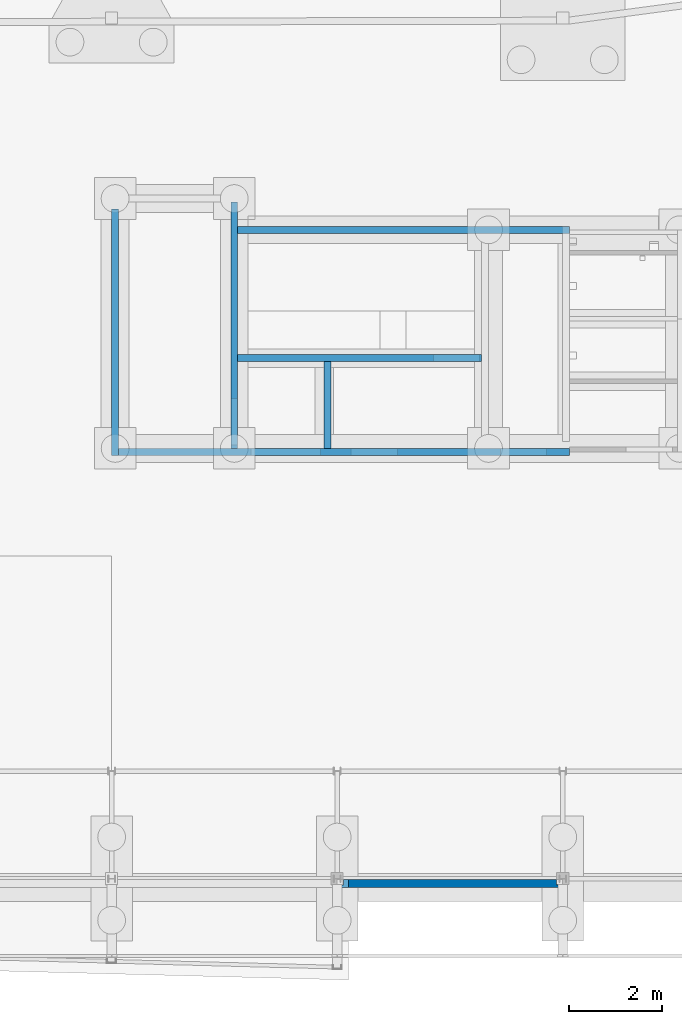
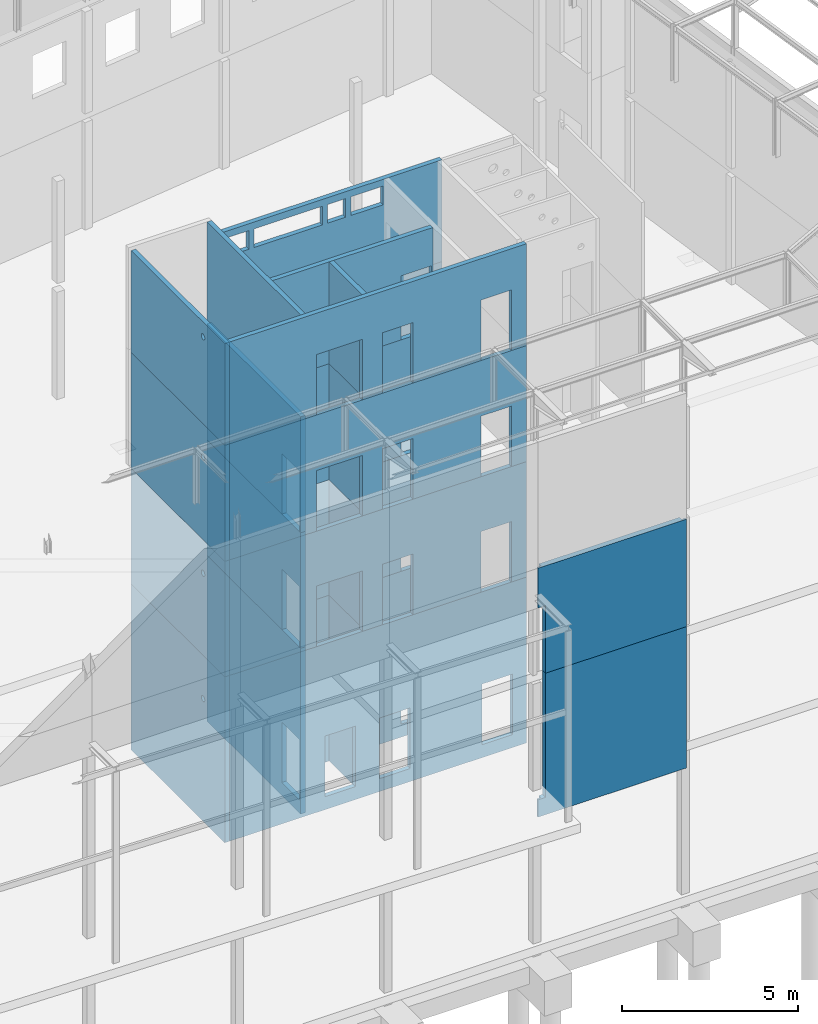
# One storey, part 74 of 82: 25 walls.
"""IFC2X3 building model written with IfcOpenShell, lengths in millimetres."""

from ifc_helpers import new_model, si_unit, frame, frame_2d, origin_with_axes, place, context, subcontext, project, spatial, polyline, rectangle, circle, outline, extrude, boolean, material, layer, layer_set, layer_usage, type_object, element, save


model = new_model("IFC2X3")

# Units and contexts
model_context = context("Model", 3, precision=1e-05, world=origin_with_axes())
body_context = subcontext(model_context, "Body", "Model", "MODEL_VIEW")
ifc_project = project(units=[si_unit("LENGTHUNIT", "METRE", prefix="MILLI"), si_unit("AREAUNIT", "SQUARE_METRE"), si_unit("VOLUMEUNIT", "CUBIC_METRE"), si_unit("MASSUNIT", "GRAM", prefix="KILO"), si_unit("TIMEUNIT", "SECOND"), si_unit("PLANEANGLEUNIT", "RADIAN"), si_unit("SOLIDANGLEUNIT", "STERADIAN"), si_unit("THERMODYNAMICTEMPERATUREUNIT", "DEGREE_CELSIUS"), si_unit("LUMINOUSINTENSITYUNIT", "LUMEN")], contexts=[model_context])

# Site, building, storey
site_placement = place(None, origin_with_axes())
site = spatial("IfcSite", under=ifc_project, at=site_placement, Name="Undefined", CompositionType="ELEMENT")
building_placement = place(site_placement, origin_with_axes())
building = spatial("IfcBuilding", under=site, at=building_placement, Name="Undefined", CompositionType="ELEMENT")
storey_placement = place(building_placement, origin_with_axes())
storey = spatial("IfcBuildingStorey", under=building, at=storey_placement, Name="Undefined", CompositionType="ELEMENT", Elevation=0.0)

# Walls
ifc_material = material(Name="CONCRETE/C25/30")
ifc_layer_1 = layer(ifc_material, 150.0)
ifc_layer_set_1 = layer_set([ifc_layer_1], Name="Wall: Insitu CONCRETE/C25/30")
ifc_layer_usage_1 = layer_usage(ifc_layer_set_1, "AXIS2", "POSITIVE", -75.0)
wall_type_1 = type_object("IfcWallType", Name="4025*150", PredefinedType="NOTDEFINED")
wall_1_placement = place(storey_placement, frame((51765.6910058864, 9299.99999994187, 9305.0), z_axis=(0.0, 0.0, 1.0), x_axis=(0.0, 1.0, 0.0)))
element("IfcWallStandardCase", 1, at=wall_1_placement, inside=storey, type_object=wall_type_1, material=ifc_layer_usage_1, Name="VOILE_15CM", ObjectType="4025*150", context=body_context, shape_type="SweptSolid", body=[
    extrude(rectangle(XDim=1874.99999997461, YDim=150.0, at=frame_2d((0.0, 937.499999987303), x_axis=(0.0, -1.0))), frame((0.0, 0.0, 0.0), z_axis=(0.0, 0.0, 1.0), x_axis=(-2.77555756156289e-17, -1.0, 0.0)), (0.0, 0.0, 1.0), 4025.0),
])
ifc_layer_usage_2 = layer_usage(ifc_layer_set_1, "AXIS2", "POSITIVE", -75.0)
wall_2_placement = place(storey_placement, frame((55096.3767782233, 11249.9999999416, 9305.0), z_axis=(0.0, 0.0, 1.0), x_axis=(-1.0, 0.0, 0.0)))
element("IfcWallStandardCase", 2, at=wall_2_placement, inside=storey, type_object=wall_type_1, material=ifc_layer_usage_2, Name="VOILE_15CM", ObjectType="4025*150", context=body_context, shape_type="CSG", body=[
    boolean("DIFFERENCE", extrude(rectangle(XDim=5271.37655648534, YDim=150.0, at=frame_2d((0.0, 2635.68827824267), x_axis=(0.0, -1.0))), frame((0.0, 0.0, 0.0), z_axis=(0.0, 0.0, 1.0), x_axis=(-2.77555756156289e-17, -1.0, 0.0)), (0.0, 0.0, 1.0), 4025.0), extrude(outline(polyline([(5.17284206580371e-08, 4.49290382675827e-10), (2220.0, -4.22005541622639e-10), (2220.0, 999.999999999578), (0.0, 1000.00000000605), (5.17284206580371e-08, 4.49290382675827e-10)])), frame((1042.09976915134, -84.9999998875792, 2220.0), z_axis=(0.0, 1.0, 0.0), x_axis=(0.0, -6.50000002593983e-08, -0.999999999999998)), (0.0, 0.0, 1.0), 170.0)),
])
ifc_layer_usage_3 = layer_usage(ifc_layer_set_1, "AXIS2", "POSITIVE", -75.0)
wall_3_placement = place(storey_placement, frame((56999.999999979, 14024.9999999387, 9305.0), z_axis=(0.0, 0.0, 1.0), x_axis=(-1.0, 0.0, 0.0)))
element("IfcWallStandardCase", 3, at=wall_3_placement, inside=storey, type_object=wall_type_1, material=ifc_layer_usage_3, Name="VOILE_15CM", ObjectType="4025*150", context=body_context, shape_type="CSG", body=[
    boolean("DIFFERENCE", boolean("DIFFERENCE", extrude(rectangle(XDim=7175.00000000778, YDim=150.0, at=frame_2d((0.0, 3587.50000000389), x_axis=(0.0, -1.0))), frame((0.0, 0.0, 0.0), z_axis=(0.0, 0.0, 1.0), x_axis=(-2.77555756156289e-17, -1.0, 0.0)), (0.0, 0.0, 1.0), 4025.0), extrude(rectangle(XDim=700.0, YDim=550.0, at=frame_2d((5.17284206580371e-08, 4.49290382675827e-10), x_axis=(1.0, 0.0))), frame((3464.99668891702, -85.0, 2900.00022125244), z_axis=(0.0, 1.0, 0.0), x_axis=(-1.0, 0.0, 0.0)), (0.0, 0.0, 1.0), 170.0)), extrude(rectangle(XDim=1100.0, YDim=700.0, at=frame_2d((5.17284206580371e-08, 4.49290382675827e-10), x_axis=(1.0, 0.0))), frame((2464.91276556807, -85.0, 2867.49995422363), z_axis=(0.0, 1.0, 0.0), x_axis=(-1.0, 0.0, 0.0)), (0.0, 0.0, 1.0), 170.0)),
])
ifc_layer_usage_4 = layer_usage(ifc_layer_set_1, "AXIS2", "POSITIVE", -75.0)
wall_4_placement = place(storey_placement, frame((49749.9999999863, 9299.99999994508, 9305.0), z_axis=(0.0, 0.0, 1.0), x_axis=(0.0, 1.0, 0.0)))
element("IfcWallStandardCase", 4, at=wall_4_placement, inside=storey, type_object=wall_type_1, material=ifc_layer_usage_4, Name="VOILE_15CM", ObjectType="4025*150", context=body_context, shape_type="CSG", body=[
    boolean("DIFFERENCE", extrude(rectangle(XDim=5324.99999999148, YDim=150.0, at=frame_2d((0.0, 2662.49999999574), x_axis=(0.0, -1.0))), frame((0.0, 0.0, 0.0), z_axis=(0.0, 0.0, 1.0), x_axis=(-2.77555756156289e-17, -1.0, 0.0)), (0.0, 0.0, 1.0), 4025.0), extrude(outline(polyline([(5.17284206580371e-08, 4.49290382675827e-10), (2100.0, 5.82076609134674e-11), (2100.0, 1000.00000000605), (0.0, 1000.00000000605), (5.17284206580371e-08, 4.49290382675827e-10)])), frame((74.999999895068, 85.0000000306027, 2100.0), z_axis=(-2.77555756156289e-17, -1.0, 0.0), x_axis=(0.0, -6.50000002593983e-08, -0.999999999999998)), (0.0, 0.0, 1.0), 170.0)),
])
ifc_layer_usage_5 = layer_usage(ifc_layer_set_1, "AXIS2", "POSITIVE", -75.0)
wall_5_placement = place(storey_placement, frame((47099.9999999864, 9224.9999999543, 9305.0), z_axis=(0.0, 0.0, 1.0), x_axis=(1.0, 0.0, 0.0)))
element("IfcWallStandardCase", 5, at=wall_5_placement, inside=storey, type_object=wall_type_1, material=ifc_layer_usage_5, Name="VOILE_15CM", ObjectType="4025*150", context=body_context, shape_type="CSG", body=[
    boolean("DIFFERENCE", boolean("DIFFERENCE", boolean("DIFFERENCE", extrude(rectangle(XDim=9900.00000000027, YDim=150.0, at=frame_2d((0.0, 4950.00000000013), x_axis=(0.0, -1.0))), frame((0.0, 0.0, 0.0), z_axis=(0.0, 0.0, 1.0), x_axis=(-2.77555756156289e-17, -1.0, 0.0)), (0.0, 0.0, 1.0), 4025.0), extrude(outline(polyline([(5.17284206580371e-08, 4.49290382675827e-10), (2100.0, 5.82076609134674e-11), (2100.0, 1000.00000000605), (0.0, 1000.00000000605), (5.17284206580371e-08, 4.49290382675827e-10)])), frame((8400.88208060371, 84.9999998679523, 2100.0), z_axis=(-2.77555756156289e-17, -1.0, 0.0), x_axis=(0.0, -6.50000002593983e-08, -0.999999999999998)), (0.0, 0.0, 1.0), 170.0)), extrude(outline(polyline([(5.17284206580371e-08, 4.49290382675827e-10), (2100.0, 5.82076609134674e-11), (2100.0, 1000.00000000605), (0.0, 1000.00000000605), (5.17284206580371e-08, 4.49290382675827e-10)])), frame((5175.39775832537, 84.99999988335, 2100.0), z_axis=(-2.77555756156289e-17, -1.0, 0.0), x_axis=(0.0, -6.50000002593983e-08, -0.999999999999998)), (0.0, 0.0, 1.0), 170.0)), extrude(outline(polyline([(5.17284206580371e-08, 4.49290382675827e-10), (2100.0, 5.82076609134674e-11), (2100.0, 1499.99999999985), (0.0, 1499.99999999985), (5.17284206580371e-08, 4.49290382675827e-10)])), frame((3009.51444525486, 84.999999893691, 2100.0), z_axis=(-2.77555756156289e-17, -1.0, 0.0), x_axis=(0.0, -6.50000002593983e-08, -0.999999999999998)), (0.0, 0.0, 1.0), 170.0)),
])
ifc_layer_usage_6 = layer_usage(ifc_layer_set_1, "AXIS2", "POSITIVE", -75.0)
wall_6_placement = place(storey_placement, frame((47174.9999999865, 9149.99999994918, 9305.0), z_axis=(0.0, 0.0, 1.0), x_axis=(0.0, 1.0, 0.0)))
element("IfcWallStandardCase", 6, at=wall_6_placement, inside=storey, type_object=wall_type_1, material=ifc_layer_usage_6, Name="VOILE_15CM", ObjectType="4025*150", context=body_context, shape_type="CSG", body=[
    boolean("DIFFERENCE", extrude(rectangle(XDim=5324.99999999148, YDim=150.0, at=frame_2d((0.0, 2662.49999999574), x_axis=(0.0, -1.0))), frame((0.0, 0.0, 0.0), z_axis=(0.0, 0.0, 1.0), x_axis=(-2.77555756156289e-17, -1.0, 0.0)), (0.0, 0.0, 1.0), 4025.0), extrude(circle(Radius=100.0, at=frame_2d((5.17284206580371e-08, 4.49290382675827e-10), x_axis=(1.0, 0.0))), frame((1235.63286577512, -85.0, 2870.25073242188), z_axis=(0.0, 1.0, 0.0), x_axis=(-1.0, 0.0, 0.0)), (0.0, 0.0, 1.0), 170.0)),
])
ifc_layer_usage_7 = layer_usage(ifc_layer_set_1, "AXIS2", "POSITIVE", -75.0)
wall_type_2 = type_object("IfcWallType", Name="4005*150", PredefinedType="NOTDEFINED")
wall_7_placement = place(storey_placement, frame((51765.6910058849, 9299.99999994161, 5300.0), z_axis=(0.0, 0.0, 1.0), x_axis=(0.0, 1.0, 0.0)))
element("IfcWallStandardCase", 7, at=wall_7_placement, inside=storey, type_object=wall_type_2, material=ifc_layer_usage_7, Name="VOILE_15CM", ObjectType="4005*150", context=body_context, shape_type="SweptSolid", body=[
    extrude(rectangle(XDim=1874.99999997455, YDim=150.0, at=frame_2d((0.0, 937.499999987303), x_axis=(0.0, -1.0))), frame((0.0, 0.0, 0.0), z_axis=(0.0, 0.0, 1.0), x_axis=(-2.77555756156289e-17, -1.0, 0.0)), (0.0, 0.0, 1.0), 4005.0),
])
ifc_layer_usage_8 = layer_usage(ifc_layer_set_1, "AXIS2", "POSITIVE", -75.0)
wall_8_placement = place(storey_placement, frame((55096.3767782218, 11249.9999999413, 5300.0), z_axis=(0.0, 0.0, 1.0), x_axis=(-1.0, 0.0, 0.0)))
element("IfcWallStandardCase", 8, at=wall_8_placement, inside=storey, type_object=wall_type_2, material=ifc_layer_usage_8, Name="VOILE_15CM", ObjectType="4005*150", context=body_context, shape_type="CSG", body=[
    boolean("DIFFERENCE", extrude(rectangle(XDim=5271.37655648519, YDim=150.0, at=frame_2d((0.0, 2635.68827824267), x_axis=(0.0, -1.0))), frame((0.0, 0.0, 0.0), z_axis=(0.0, 0.0, 1.0), x_axis=(-2.77555756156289e-17, -1.0, 0.0)), (0.0, 0.0, 1.0), 4005.0), extrude(outline(polyline([(5.17284206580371e-08, 4.49290382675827e-10), (2200.0, 1.09139364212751e-11), (2200.0, 1000.00000000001), (0.0, 1000.00000000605), (5.17284206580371e-08, 4.49290382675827e-10)])), frame((1042.09976910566, -84.9999998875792, 2200.0), z_axis=(0.0, 1.0, 0.0), x_axis=(0.0, -6.50000002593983e-08, -0.999999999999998)), (0.0, 0.0, 1.0), 170.0)),
])
ifc_layer_usage_9 = layer_usage(ifc_layer_set_1, "AXIS2", "POSITIVE", -75.0)
wall_9_placement = place(storey_placement, frame((56999.9999999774, 14024.9999999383, 5300.0), z_axis=(0.0, 0.0, 1.0), x_axis=(-1.0, 0.0, 0.0)))
element("IfcWallStandardCase", 9, at=wall_9_placement, inside=storey, type_object=wall_type_2, material=ifc_layer_usage_9, Name="VOILE_15CM", ObjectType="4005*150", context=body_context, shape_type="CSG", body=[
    boolean("DIFFERENCE", boolean("DIFFERENCE", extrude(rectangle(XDim=7175.00000000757, YDim=150.0, at=frame_2d((0.0, 3587.50000000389), x_axis=(0.0, -1.0))), frame((0.0, 0.0, 0.0), z_axis=(0.0, 0.0, 1.0), x_axis=(-2.77555756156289e-17, -1.0, 0.0)), (0.0, 0.0, 1.0), 4005.0), extrude(rectangle(XDim=650.0, YDim=650.0, at=frame_2d((5.17284206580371e-08, 4.49290382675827e-10), x_axis=(1.0, 0.0))), frame((5865.00317414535, -85.0, 2874.99953460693), z_axis=(0.0, 1.0, 0.0), x_axis=(-1.0, 0.0, 0.0)), (0.0, 0.0, 1.0), 170.0)), extrude(rectangle(XDim=750.0, YDim=500.0, at=frame_2d((5.17284206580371e-08, 4.49290382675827e-10), x_axis=(1.0, 0.0))), frame((2707.28470003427, -85.0, 2899.99953460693), z_axis=(0.0, 1.0, 0.0), x_axis=(-1.0, 0.0, 0.0)), (0.0, 0.0, 1.0), 170.0)),
])
ifc_layer_usage_10 = layer_usage(ifc_layer_set_1, "AXIS2", "POSITIVE", -75.0)
wall_10_placement = place(storey_placement, frame((49749.9999999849, 9299.99999994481, 5300.0), z_axis=(0.0, 0.0, 1.0), x_axis=(0.0, 1.0, 0.0)))
element("IfcWallStandardCase", 10, at=wall_10_placement, inside=storey, type_object=wall_type_2, material=ifc_layer_usage_10, Name="VOILE_15CM", ObjectType="4005*150", context=body_context, shape_type="CSG", body=[
    boolean("DIFFERENCE", extrude(rectangle(XDim=5324.99999999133, YDim=150.0, at=frame_2d((0.0, 2662.49999999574), x_axis=(0.0, -1.0))), frame((0.0, 0.0, 0.0), z_axis=(0.0, 0.0, 1.0), x_axis=(-2.77555756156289e-17, -1.0, 0.0)), (0.0, 0.0, 1.0), 4005.0), extrude(outline(polyline([(5.17284206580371e-08, 4.49290382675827e-10), (2100.0, 5.82076609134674e-11), (2100.0, 1000.00000000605), (0.0, 1000.00000000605), (5.17284206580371e-08, 4.49290382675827e-10)])), frame((74.999999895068, 85.0000000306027, 2100.0), z_axis=(-2.77555756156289e-17, -1.0, 0.0), x_axis=(0.0, -6.50000002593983e-08, -0.999999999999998)), (0.0, 0.0, 1.0), 170.0)),
])
ifc_layer_usage_11 = layer_usage(ifc_layer_set_1, "AXIS2", "POSITIVE", -75.0)
wall_11_placement = place(storey_placement, frame((47099.999999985, 9224.99999995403, 5300.0), z_axis=(0.0, 0.0, 1.0), x_axis=(1.0, 0.0, 0.0)))
element("IfcWallStandardCase", 11, at=wall_11_placement, inside=storey, type_object=wall_type_2, material=ifc_layer_usage_11, Name="VOILE_15CM", ObjectType="4005*150", context=body_context, shape_type="CSG", body=[
    boolean("DIFFERENCE", boolean("DIFFERENCE", boolean("DIFFERENCE", extrude(rectangle(XDim=9899.99999999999, YDim=150.0, at=frame_2d((0.0, 4950.00000000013), x_axis=(0.0, -1.0))), frame((0.0, 0.0, 0.0), z_axis=(0.0, 0.0, 1.0), x_axis=(-2.77555756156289e-17, -1.0, 0.0)), (0.0, 0.0, 1.0), 4005.0), extrude(outline(polyline([(5.17284206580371e-08, 4.49290382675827e-10), (2100.0, 5.82076609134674e-11), (2100.0, 1000.00000000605), (0.0, 1000.00000000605), (5.17284206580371e-08, 4.49290382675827e-10)])), frame((8400.88208060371, 84.9999998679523, 2100.0), z_axis=(-2.77555756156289e-17, -1.0, 0.0), x_axis=(0.0, -6.50000002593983e-08, -0.999999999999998)), (0.0, 0.0, 1.0), 170.0)), extrude(outline(polyline([(5.17284206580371e-08, 4.49290382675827e-10), (2100.0, 5.82076609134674e-11), (2100.0, 1000.00000000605), (0.0, 1000.00000000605), (5.17284206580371e-08, 4.49290382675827e-10)])), frame((5175.39775832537, 84.99999988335, 2100.0), z_axis=(-2.77555756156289e-17, -1.0, 0.0), x_axis=(0.0, -6.50000002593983e-08, -0.999999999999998)), (0.0, 0.0, 1.0), 170.0)), extrude(outline(polyline([(5.17284206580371e-08, 4.49290382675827e-10), (2100.0, 5.82076609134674e-11), (2100.0, 1499.99999999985), (0.0, 1499.99999999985), (5.17284206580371e-08, 4.49290382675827e-10)])), frame((3009.51444525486, 84.999999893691, 2100.0), z_axis=(-2.77555756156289e-17, -1.0, 0.0), x_axis=(0.0, -6.50000002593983e-08, -0.999999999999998)), (0.0, 0.0, 1.0), 170.0)),
])
ifc_layer_usage_12 = layer_usage(ifc_layer_set_1, "AXIS2", "POSITIVE", -75.0)
wall_12_placement = place(storey_placement, frame((47174.9999999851, 9149.99999994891, 5300.0), z_axis=(0.0, 0.0, 1.0), x_axis=(0.0, 1.0, 0.0)))
element("IfcWallStandardCase", 12, at=wall_12_placement, inside=storey, type_object=wall_type_2, material=ifc_layer_usage_12, Name="VOILE_15CM", ObjectType="4005*150", context=body_context, shape_type="CSG", body=[
    boolean("DIFFERENCE", extrude(rectangle(XDim=5324.99999999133, YDim=150.0, at=frame_2d((0.0, 2662.49999999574), x_axis=(0.0, -1.0))), frame((0.0, 0.0, 0.0), z_axis=(0.0, 0.0, 1.0), x_axis=(-2.77555756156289e-17, -1.0, 0.0)), (0.0, 0.0, 1.0), 4005.0), extrude(circle(Radius=100.0, at=frame_2d((5.17284206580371e-08, 4.49290382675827e-10), x_axis=(1.0, 0.0))), frame((1235.63286577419, -85.0, 2850.25073242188), z_axis=(0.0, 1.0, 0.0), x_axis=(-1.0, 0.0, 0.0)), (0.0, 0.0, 1.0), 170.0)),
])
ifc_layer_usage_13 = layer_usage(ifc_layer_set_1, "AXIS2", "POSITIVE", -75.0)
wall_type_3 = type_object("IfcWallType", Name="3530*150", PredefinedType="NOTDEFINED")
wall_13_placement = place(storey_placement, frame((51765.6910058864, 9299.99999994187, 13330.0), z_axis=(0.0, 0.0, 1.0), x_axis=(0.0, 1.0, 0.0)))
element("IfcWallStandardCase", 13, at=wall_13_placement, inside=storey, type_object=wall_type_3, material=ifc_layer_usage_13, Name="VOILE_15CM", ObjectType="3530*150", context=body_context, shape_type="SweptSolid", body=[
    extrude(rectangle(XDim=1874.99999997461, YDim=150.0, at=frame_2d((0.0, 937.499999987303), x_axis=(0.0, -1.0))), frame((0.0, 0.0, 0.0), z_axis=(0.0, 0.0, 1.0), x_axis=(-2.77555756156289e-17, -1.0, 0.0)), (0.0, 0.0, 1.0), 3530.0),
])
ifc_layer_usage_14 = layer_usage(ifc_layer_set_1, "AXIS2", "POSITIVE", -75.0)
wall_14_placement = place(storey_placement, frame((56999.999999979, 14024.9999999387, 13330.0), z_axis=(0.0, 0.0, 1.0), x_axis=(-1.0, 0.0, 0.0)))
element("IfcWallStandardCase", 14, at=wall_14_placement, inside=storey, type_object=wall_type_3, material=ifc_layer_usage_14, Name="VOILE_15CM", ObjectType="3530*150", context=body_context, shape_type="CSG", body=[
    boolean("DIFFERENCE", boolean("DIFFERENCE", boolean("DIFFERENCE", boolean("DIFFERENCE", extrude(rectangle(XDim=7175.00000000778, YDim=150.0, at=frame_2d((0.0, 3587.50000000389), x_axis=(0.0, -1.0))), frame((0.0, 0.0, 0.0), z_axis=(0.0, 0.0, 1.0), x_axis=(-2.77555756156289e-17, -1.0, 0.0)), (0.0, 0.0, 1.0), 3530.0), extrude(rectangle(XDim=650.0, YDim=650.0, at=frame_2d((5.17284206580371e-08, 4.49290382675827e-10), x_axis=(1.0, 0.0))), frame((6665.003173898, -85.0, 2970.00048828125), z_axis=(0.0, 1.0, 0.0), x_axis=(-1.0, 0.0, 0.0)), (0.0, 0.0, 1.0), 170.0)), extrude(rectangle(XDim=2250.0, YDim=650.0, at=frame_2d((5.17284206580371e-08, 4.49290382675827e-10), x_axis=(1.0, 0.0))), frame((5052.50489051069, -85.0, 2970.00048828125), z_axis=(0.0, 1.0, 0.0), x_axis=(-1.0, 0.0, 0.0)), (0.0, 0.0, 1.0), 170.0)), extrude(rectangle(XDim=600.0, YDim=650.0, at=frame_2d((5.17284206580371e-08, 4.49290382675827e-10), x_axis=(1.0, 0.0))), frame((3464.99859626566, -85.0, 2970.00048828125), z_axis=(0.0, 1.0, 0.0), x_axis=(-1.0, 0.0, 0.0)), (0.0, 0.0, 1.0), 170.0)), extrude(rectangle(XDim=1050.0, YDim=650.0, at=frame_2d((5.17284206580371e-08, 4.49290382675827e-10), x_axis=(1.0, 0.0))), frame((2464.91276556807, -85.0, 2970.00048828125), z_axis=(0.0, 1.0, 0.0), x_axis=(-1.0, 0.0, 0.0)), (0.0, 0.0, 1.0), 170.0)),
])
ifc_layer_usage_15 = layer_usage(ifc_layer_set_1, "AXIS2", "POSITIVE", -75.0)
wall_15_placement = place(storey_placement, frame((47099.9999999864, 9224.9999999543, 13330.0), z_axis=(0.0, 0.0, 1.0), x_axis=(1.0, 0.0, 0.0)))
element("IfcWallStandardCase", 15, at=wall_15_placement, inside=storey, type_object=wall_type_3, material=ifc_layer_usage_15, Name="VOILE_15CM", ObjectType="3530*150", context=body_context, shape_type="CSG", body=[
    boolean("DIFFERENCE", boolean("DIFFERENCE", boolean("DIFFERENCE", extrude(rectangle(XDim=9900.00000000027, YDim=150.0, at=frame_2d((0.0, 4950.00000000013), x_axis=(0.0, -1.0))), frame((0.0, 0.0, 0.0), z_axis=(0.0, 0.0, 1.0), x_axis=(-2.77555756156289e-17, -1.0, 0.0)), (0.0, 0.0, 1.0), 3530.0), extrude(outline(polyline([(5.17284206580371e-08, 4.49290382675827e-10), (2100.0, 5.82076609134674e-11), (2100.0, 1000.00000000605), (0.0, 1000.00000000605), (5.17284206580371e-08, 4.49290382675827e-10)])), frame((8400.88208060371, 84.9999998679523, 2100.0), z_axis=(-2.77555756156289e-17, -1.0, 0.0), x_axis=(0.0, -6.50000002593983e-08, -0.999999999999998)), (0.0, 0.0, 1.0), 170.0)), extrude(outline(polyline([(5.17284206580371e-08, 4.49290382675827e-10), (2100.0, 5.82076609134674e-11), (2100.0, 1000.00000000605), (0.0, 1000.00000000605), (5.17284206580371e-08, 4.49290382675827e-10)])), frame((5175.39775832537, 84.99999988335, 2100.0), z_axis=(-2.77555756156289e-17, -1.0, 0.0), x_axis=(0.0, -6.50000002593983e-08, -0.999999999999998)), (0.0, 0.0, 1.0), 170.0)), extrude(outline(polyline([(5.17284206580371e-08, 4.49290382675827e-10), (2100.0, 5.82076609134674e-11), (2100.0, 1499.99999999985), (0.0, 1499.99999999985), (5.17284206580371e-08, 4.49290382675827e-10)])), frame((3009.51444525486, 84.999999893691, 2100.0), z_axis=(-2.77555756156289e-17, -1.0, 0.0), x_axis=(0.0, -6.50000002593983e-08, -0.999999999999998)), (0.0, 0.0, 1.0), 170.0)),
])
ifc_layer_usage_16 = layer_usage(ifc_layer_set_1, "AXIS2", "POSITIVE", -75.0)
wall_16_placement = place(storey_placement, frame((55096.3767782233, 11249.9999999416, 13330.0), z_axis=(0.0, 0.0, 1.0), x_axis=(-1.0, 0.0, 0.0)))
element("IfcWallStandardCase", 16, at=wall_16_placement, inside=storey, type_object=wall_type_3, material=ifc_layer_usage_16, Name="VOILE_15CM", ObjectType="3530*150", context=body_context, shape_type="CSG", body=[
    boolean("DIFFERENCE", extrude(rectangle(XDim=5271.37655648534, YDim=150.0, at=frame_2d((0.0, 2635.68827824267), x_axis=(0.0, -1.0))), frame((0.0, 0.0, 0.0), z_axis=(0.0, 0.0, 1.0), x_axis=(-2.77555756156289e-17, -1.0, 0.0)), (0.0, 0.0, 1.0), 3530.0), extrude(outline(polyline([(5.17284206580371e-08, 4.49290382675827e-10), (2220.0, -4.22005541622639e-10), (2220.0, 999.999999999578), (0.0, 1000.00000000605), (5.17284206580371e-08, 4.49290382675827e-10)])), frame((1042.09976915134, -84.9999998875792, 2220.0), z_axis=(0.0, 1.0, 0.0), x_axis=(0.0, -6.50000002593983e-08, -0.999999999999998)), (0.0, 0.0, 1.0), 170.0)),
])
ifc_layer_usage_17 = layer_usage(ifc_layer_set_1, "AXIS2", "POSITIVE", -75.0)
wall_17_placement = place(storey_placement, frame((49749.9999999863, 9299.99999994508, 13330.0), z_axis=(0.0, 0.0, 1.0), x_axis=(0.0, 1.0, 0.0)))
element("IfcWallStandardCase", 17, at=wall_17_placement, inside=storey, type_object=wall_type_3, material=ifc_layer_usage_17, Name="VOILE_15CM", ObjectType="3530*150", context=body_context, shape_type="CSG", body=[
    boolean("DIFFERENCE", extrude(rectangle(XDim=5324.99999999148, YDim=150.0, at=frame_2d((0.0, 2662.49999999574), x_axis=(0.0, -1.0))), frame((0.0, 0.0, 0.0), z_axis=(0.0, 0.0, 1.0), x_axis=(-2.77555756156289e-17, -1.0, 0.0)), (0.0, 0.0, 1.0), 3530.0), extrude(outline(polyline([(5.17284206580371e-08, 4.49290382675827e-10), (2100.0, 5.82076609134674e-11), (2100.0, 1000.00000000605), (0.0, 1000.00000000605), (5.17284206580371e-08, 4.49290382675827e-10)])), frame((74.999999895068, 85.0000000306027, 2100.0), z_axis=(-2.77555756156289e-17, -1.0, 0.0), x_axis=(0.0, -6.50000002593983e-08, -0.999999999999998)), (0.0, 0.0, 1.0), 170.0)),
])
ifc_layer_usage_18 = layer_usage(ifc_layer_set_1, "AXIS2", "POSITIVE", -75.0)
wall_18_placement = place(storey_placement, frame((47174.9999999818, 9149.9999998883, 13330.0), z_axis=(0.0, 0.0, 1.0), x_axis=(0.0, 1.0, 0.0)))
element("IfcWallStandardCase", 18, at=wall_18_placement, inside=storey, type_object=wall_type_3, material=ifc_layer_usage_18, Name="VOILE_15CM", ObjectType="3530*150", context=body_context, shape_type="CSG", body=[
    boolean("DIFFERENCE", extrude(rectangle(XDim=5324.99999999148, YDim=150.0, at=frame_2d((0.0, 2662.49999999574), x_axis=(0.0, -1.0))), frame((0.0, 0.0, 0.0), z_axis=(0.0, 0.0, 1.0), x_axis=(-2.77555756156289e-17, -1.0, 0.0)), (0.0, 0.0, 1.0), 3530.0), extrude(circle(Radius=100.0, at=frame_2d((5.17284206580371e-08, 4.49290382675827e-10), x_axis=(1.0, 0.0))), frame((1235.63286583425, -85.0, 3020.00163269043), z_axis=(0.0, 1.0, 0.0), x_axis=(-1.0, 0.0, 0.0)), (0.0, 0.0, 1.0), 170.0)),
])
ifc_layer_2 = layer(ifc_material, 180.0)
ifc_layer_set_2 = layer_set([ifc_layer_2], Name="Wall: Insitu CONCRETE/C25/30")
ifc_layer_usage_19 = layer_usage(ifc_layer_set_2, "AXIS2", "POSITIVE", -90.0)
wall_type_4 = type_object("IfcWallType", Name="3725*180", PredefinedType="NOTDEFINED")
wall_19_placement = place(storey_placement, frame((56849.9999851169, -104.999999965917, 9305.0), z_axis=(0.0, 0.0, 1.0), x_axis=(-1.0, 0.0, 0.0)))
solid_1 = boolean("DIFFERENCE", extrude(rectangle(XDim=4874.99999908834, YDim=180.0, at=frame_2d((0.0, 2437.49999210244), x_axis=(0.0, -1.0))), frame((-1.48827239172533e-05, 3.07432941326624e-07, 16650.0), z_axis=(0.0, 0.0, 1.0), x_axis=(-2.77555756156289e-17, -1.0, 0.0)), (0.0, 0.0, 1.0), 3725.0), extrude(outline(polyline([(5.17284206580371e-08, 4.49290382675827e-10), (249.434494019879, 4.18367562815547e-10), (249.418747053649, 14305.0000000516), (-0.0157491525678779, 14305.000000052), (5.17284206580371e-08, 4.49290382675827e-10)])), frame((4874.99998420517, 87.5000000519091, 2345.0), z_axis=(0.0, 1.0, 0.0), x_axis=(-0.999999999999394, 0.0, -1.10100000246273e-06)), (0.0, 0.0, 1.0), 185.0))
solid_2 = boolean("DIFFERENCE", extrude(rectangle(XDim=265.0, YDim=265.0, at=frame_2d((5.17284206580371e-08, 4.49290382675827e-10), x_axis=(1.0, 0.0))), frame((-2.00597489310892e-05, -104.999999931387, 3724.99999999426), z_axis=(0.0, -6.50000002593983e-08, -0.999999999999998), x_axis=(1.0, 0.0, 0.0)), (0.0, 0.0, 1.0), 3725.0), solid_1)
solid_3 = boolean("DIFFERENCE", extrude(rectangle(XDim=4874.99999908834, YDim=180.0, at=frame_2d((0.0, 2437.49999210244), x_axis=(0.0, -1.0))), frame((-1.48827239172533e-05, 3.07432941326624e-07, 16650.0), z_axis=(0.0, 0.0, 1.0), x_axis=(-2.77555756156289e-17, -1.0, 0.0)), (0.0, 0.0, 1.0), 3725.0), extrude(outline(polyline([(5.17284206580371e-08, 4.49290382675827e-10), (249.434494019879, 4.18367562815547e-10), (249.418747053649, 14305.0000000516), (-0.0157491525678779, 14305.000000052), (5.17284206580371e-08, 4.49290382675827e-10)])), frame((4874.99998420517, 87.5000000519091, 2345.0), z_axis=(0.0, 1.0, 0.0), x_axis=(-0.999999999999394, 0.0, -1.10100000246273e-06)), (0.0, 0.0, 1.0), 185.0))
solid_4 = boolean("DIFFERENCE", extrude(rectangle(XDim=265.0, YDim=265.0, at=frame_2d((5.17284206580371e-08, 4.49290382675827e-10), x_axis=(1.0, 0.0))), frame((4874.99998511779, -104.999999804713, 3725.0), z_axis=(0.0, -6.50000002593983e-08, -0.999999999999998), x_axis=(1.0, 0.0, 0.0)), (0.0, 0.0, 1.0), 3725.0), solid_3)
element("IfcWallStandardCase", 19, at=wall_19_placement, inside=storey, type_object=wall_type_4, material=ifc_layer_usage_19, Name="PANNEAU_FACADE", ObjectType="3725*180", context=body_context, shape_type="CSG", body=[
    boolean("DIFFERENCE", boolean("DIFFERENCE", boolean("DIFFERENCE", extrude(rectangle(XDim=4874.99998420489, YDim=180.0, at=frame_2d((0.0, 2437.49999210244), x_axis=(0.0, -1.0))), frame((0.0, 0.0, 0.0), z_axis=(0.0, 0.0, 1.0), x_axis=(-2.77555756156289e-17, -1.0, 0.0)), (0.0, 0.0, 1.0), 3725.0), solid_2), solid_4), extrude(outline(polyline([(5.17284206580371e-08, 4.49290382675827e-10), (249.434494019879, 4.18367562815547e-10), (249.437072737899, 2345.00000000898), (0.00258241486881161, 2345.00000000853), (5.17284206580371e-08, 4.49290382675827e-10)])), frame((4874.99998420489, 92.4999999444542, 2345.0), z_axis=(-2.77555756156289e-17, -1.0, 0.0), x_axis=(-0.999999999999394, 0.0, -1.10100000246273e-06)), (0.0, 0.0, 1.0), 185.0)),
])
ifc_layer_usage_20 = layer_usage(ifc_layer_set_2, "AXIS2", "POSITIVE", -90.0)
wall_type_5 = type_object("IfcWallType", Name="4905*180", PredefinedType="NOTDEFINED")
wall_20_placement = place(storey_placement, frame((56849.9999851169, -104.999999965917, 4400.0), z_axis=(0.0, 0.0, 1.0), x_axis=(-1.0, 0.0, 0.0)))
element("IfcWallStandardCase", 20, at=wall_20_placement, inside=storey, type_object=wall_type_5, material=ifc_layer_usage_20, Name="PANNEAU_FACADE", ObjectType="4905*180", context=body_context, shape_type="CSG", body=[
    boolean("DIFFERENCE", boolean("DIFFERENCE", boolean("DIFFERENCE", extrude(rectangle(XDim=4874.99998420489, YDim=180.0, at=frame_2d((0.0, 2437.49999210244), x_axis=(0.0, -1.0))), frame((0.0, 0.0, 0.0), z_axis=(0.0, 0.0, 1.0), x_axis=(-2.77555756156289e-17, -1.0, 0.0)), (0.0, 0.0, 1.0), 4905.0), extrude(rectangle(XDim=265.0, YDim=265.0, at=frame_2d((5.17284206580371e-08, 4.49290382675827e-10), x_axis=(1.0, 0.0))), frame((4874.99998581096, -105.000000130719, 4605.0), z_axis=(0.0, -6.50000002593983e-08, -0.999999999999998), x_axis=(1.0, 0.0, 0.0)), (0.0, 0.0, 1.0), 4605.0)), extrude(rectangle(XDim=265.0, YDim=265.0, at=frame_2d((5.17284206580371e-08, 4.49290382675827e-10), x_axis=(1.0, 0.0))), frame((-5.27043857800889e-05, -105.000000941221, 4605.0), z_axis=(0.0, -6.50000002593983e-08, -0.999999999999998), x_axis=(0.999999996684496, -8.14309999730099e-05, 0.0)), (0.0, 0.0, 1.0), 4605.0)), extrude(outline(polyline([(5.17284206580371e-08, 4.49290382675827e-10), (249.434494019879, 4.18367562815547e-10), (249.439346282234, 4399.99951173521), (0.00484441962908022, 4399.99951173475), (5.17284206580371e-08, 4.49290382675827e-10)])), frame((4874.99998420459, 92.4999999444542, 5000.0), z_axis=(-2.77555756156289e-17, -1.0, 0.0), x_axis=(-0.999999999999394, 0.0, -1.10100000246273e-06)), (0.0, 0.0, 1.0), 185.0)),
])
ifc_layer_usage_21 = layer_usage(ifc_layer_set_1, "AXIS2", "POSITIVE", -75.0)
wall_type_6 = type_object("IfcWallType", Name="5750*150", PredefinedType="NOTDEFINED")
wall_21_placement = place(storey_placement, frame((47099.999999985, 9224.99999995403, -450.0), z_axis=(0.0, 0.0, 1.0), x_axis=(1.0, 0.0, 0.0)))
element("IfcWallStandardCase", 21, at=wall_21_placement, inside=storey, type_object=wall_type_6, material=ifc_layer_usage_21, Name="VOILE_15CM", ObjectType="5750*150", context=body_context, shape_type="CSG", body=[
    boolean("DIFFERENCE", boolean("DIFFERENCE", boolean("DIFFERENCE", extrude(rectangle(XDim=9899.99999999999, YDim=150.0, at=frame_2d((0.0, 4950.00000000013), x_axis=(0.0, -1.0))), frame((0.0, 0.0, 0.0), z_axis=(0.0, 0.0, 1.0), x_axis=(-2.77555756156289e-17, -1.0, 0.0)), (0.0, 0.0, 1.0), 5750.0), extrude(outline(polyline([(5.17284206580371e-08, 4.49290382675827e-10), (2100.0, 5.82076609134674e-11), (2100.0, 1000.00000000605), (0.0, 1000.00000000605), (5.17284206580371e-08, 4.49290382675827e-10)])), frame((8436.6202805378, 84.9999998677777, 2550.0), z_axis=(-2.77555756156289e-17, -1.0, 0.0), x_axis=(0.0, -6.50000002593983e-08, -0.999999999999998)), (0.0, 0.0, 1.0), 170.0)), extrude(outline(polyline([(5.17284206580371e-08, 4.49290382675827e-10), (2100.0, 5.82076609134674e-11), (2100.0, 1000.00000000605), (0.0, 1000.00000000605), (5.17284206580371e-08, 4.49290382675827e-10)])), frame((5077.3868177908, 84.9999998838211, 2550.0), z_axis=(-2.77555756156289e-17, -1.0, 0.0), x_axis=(0.0, -6.50000002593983e-08, -0.999999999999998)), (0.0, 0.0, 1.0), 170.0)), extrude(outline(polyline([(5.17284206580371e-08, 4.49290382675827e-10), (2100.0, 5.82076609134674e-11), (2100.0, 1000.00000000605), (0.0, 1000.00000000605), (5.17284206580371e-08, 4.49290382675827e-10)])), frame((3280.82043267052, 84.9999998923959, 2550.0), z_axis=(-2.77555756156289e-17, -1.0, 0.0), x_axis=(0.0, -6.50000002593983e-08, -0.999999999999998)), (0.0, 0.0, 1.0), 170.0)),
])
ifc_layer_usage_22 = layer_usage(ifc_layer_set_1, "AXIS2", "POSITIVE", -75.0)
wall_22_placement = place(storey_placement, frame((47174.9999999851, 9149.99999994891, -450.0), z_axis=(0.0, 0.0, 1.0), x_axis=(0.0, 1.0, 0.0)))
element("IfcWallStandardCase", 22, at=wall_22_placement, inside=storey, type_object=wall_type_6, material=ifc_layer_usage_22, Name="VOILE_15CM", ObjectType="5750*150", context=body_context, shape_type="CSG", body=[
    boolean("DIFFERENCE", extrude(rectangle(XDim=5324.99999999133, YDim=150.0, at=frame_2d((0.0, 2662.49999999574), x_axis=(0.0, -1.0))), frame((0.0, 0.0, 0.0), z_axis=(0.0, 0.0, 1.0), x_axis=(-2.77555756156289e-17, -1.0, 0.0)), (0.0, 0.0, 1.0), 5750.0), extrude(circle(Radius=100.0, at=frame_2d((5.17284206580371e-08, 4.49290382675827e-10), x_axis=(1.0, 0.0))), frame((1235.63286577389, -85.0, 4250.00048828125), z_axis=(0.0, 1.0, 0.0), x_axis=(-1.0, 0.0, 0.0)), (0.0, 0.0, 1.0), 170.0)),
])
ifc_layer_usage_23 = layer_usage(ifc_layer_set_1, "AXIS2", "POSITIVE", -75.0)
wall_23_placement = place(storey_placement, frame((51765.6910058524, 9299.99999990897, -450.0), z_axis=(0.0, 0.0, 1.0), x_axis=(0.0, 1.0, 0.0)))
element("IfcWallStandardCase", 23, at=wall_23_placement, inside=storey, type_object=wall_type_6, material=ifc_layer_usage_23, Name="VOILE_15CM", ObjectType="5750*150", context=body_context, shape_type="SweptSolid", body=[
    extrude(rectangle(XDim=1874.99999999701, YDim=150.0, at=frame_2d((0.0, 937.499999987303), x_axis=(0.0, -1.0))), frame((0.0, 0.0, 0.0), z_axis=(0.0, 0.0, 1.0), x_axis=(-2.77555756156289e-17, -1.0, 0.0)), (0.0, 0.0, 1.0), 5750.0),
])
ifc_layer_usage_24 = layer_usage(ifc_layer_set_1, "AXIS2", "POSITIVE", -75.0)
wall_24_placement = place(storey_placement, frame((55096.3767782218, 11249.9999999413, -450.0), z_axis=(0.0, 0.0, 1.0), x_axis=(-1.0, 0.0, 0.0)))
element("IfcWallStandardCase", 24, at=wall_24_placement, inside=storey, type_object=wall_type_6, material=ifc_layer_usage_24, Name="VOILE_15CM", ObjectType="5750*150", context=body_context, shape_type="CSG", body=[
    boolean("DIFFERENCE", boolean("DIFFERENCE", boolean("DIFFERENCE", boolean("DIFFERENCE", extrude(rectangle(XDim=5271.37655648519, YDim=150.0, at=frame_2d((0.0, 2635.68827824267), x_axis=(0.0, -1.0))), frame((0.0, 0.0, 0.0), z_axis=(0.0, 0.0, 1.0), x_axis=(-2.77555756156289e-17, -1.0, 0.0)), (0.0, 0.0, 1.0), 5750.0), extrude(circle(Radius=50.0, at=frame_2d((5.17284206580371e-08, 4.49290382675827e-10), x_axis=(1.0, 0.0))), frame((52.2892112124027, -85.0, 2637.99991607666), z_axis=(0.0, 1.0, 0.0), x_axis=(-1.0, 0.0, 0.0)), (0.0, 0.0, 1.0), 170.0)), extrude(circle(Radius=50.0, at=frame_2d((5.17284206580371e-08, 4.49290382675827e-10), x_axis=(1.0, 0.0))), frame((2129.04854964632, -85.0, 1824.15046691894), z_axis=(0.0, 1.0, 0.0), x_axis=(-1.0, 0.0, 0.0)), (0.0, 0.0, 1.0), 170.0)), extrude(circle(Radius=50.0, at=frame_2d((5.17284206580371e-08, 4.49290382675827e-10), x_axis=(1.0, 0.0))), frame((2178.80277733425, -85.0, 4524.31001663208), z_axis=(0.0, 1.0, 0.0), x_axis=(-1.0, 0.0, 0.0)), (0.0, 0.0, 1.0), 170.0)), extrude(outline(polyline([(5.17284206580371e-08, 4.49290382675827e-10), (2100.0, 5.82076609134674e-11), (2100.0, 1000.00000000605), (0.0, 1000.00000000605), (5.17284206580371e-08, 4.49290382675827e-10)])), frame((1042.09976910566, -84.9999998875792, 2550.0), z_axis=(0.0, 1.0, 0.0), x_axis=(0.0, -6.50000002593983e-08, -0.999999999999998)), (0.0, 0.0, 1.0), 170.0)),
])
ifc_layer_usage_25 = layer_usage(ifc_layer_set_1, "AXIS2", "POSITIVE", -75.0)
wall_25_placement = place(storey_placement, frame((49749.9999999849, 9299.99999994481, -450.0), z_axis=(0.0, 0.0, 1.0), x_axis=(0.0, 1.0, 0.0)))
element("IfcWallStandardCase", 25, at=wall_25_placement, inside=storey, type_object=wall_type_6, material=ifc_layer_usage_25, Name="VOILE_15CM", ObjectType="5750*150", context=body_context, shape_type="CSG", body=[
    boolean("DIFFERENCE", extrude(rectangle(XDim=5324.99999999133, YDim=150.0, at=frame_2d((0.0, 2662.49999999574), x_axis=(0.0, -1.0))), frame((0.0, 0.0, 0.0), z_axis=(0.0, 0.0, 1.0), x_axis=(-2.77555756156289e-17, -1.0, 0.0)), (0.0, 0.0, 1.0), 5750.0), extrude(outline(polyline([(5.17284206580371e-08, 4.49290382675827e-10), (2100.0, 5.82076609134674e-11), (2100.0, 1000.00000000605), (0.0, 1000.00000000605), (5.17284206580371e-08, 4.49290382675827e-10)])), frame((74.9999998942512, 85.0000000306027, 2550.0), z_axis=(-2.77555756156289e-17, -1.0, 0.0), x_axis=(0.0, -6.50000002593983e-08, -0.999999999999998)), (0.0, 0.0, 1.0), 170.0)),
])

save(model, "model.ifc")
